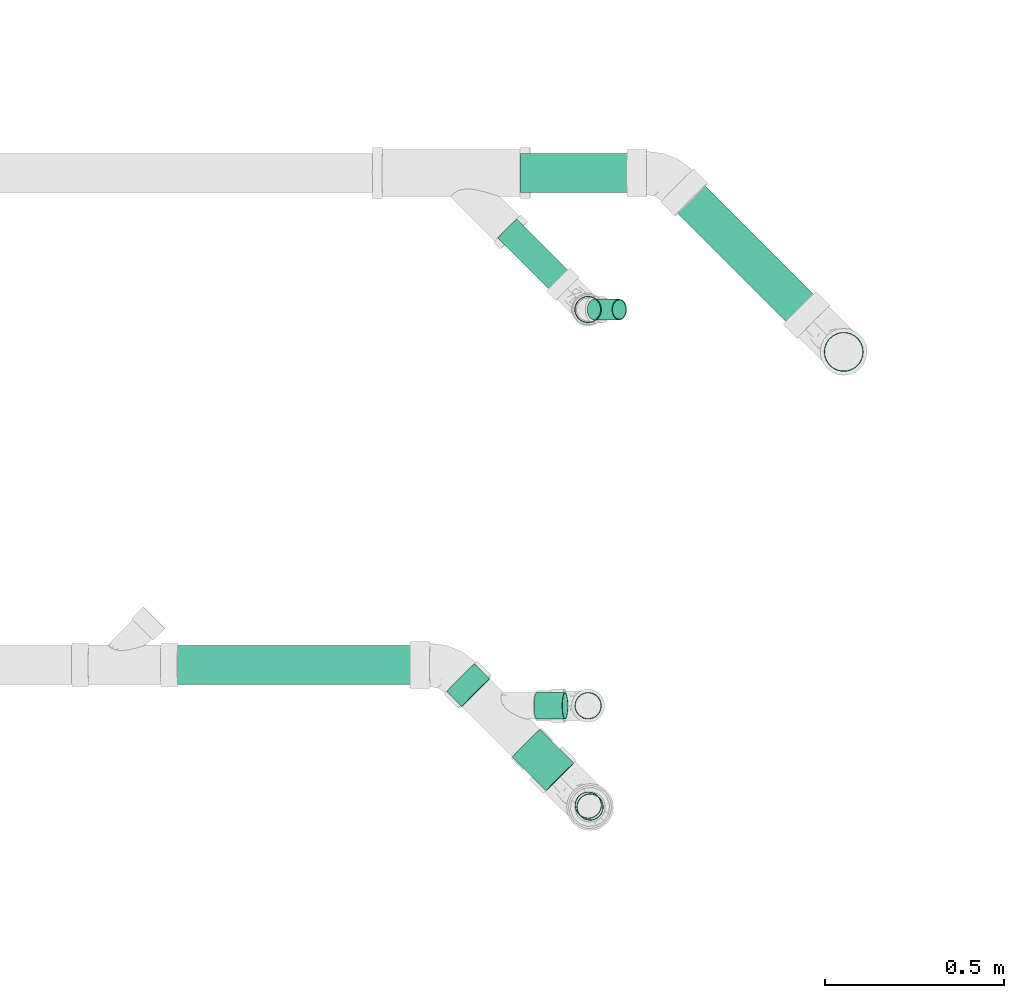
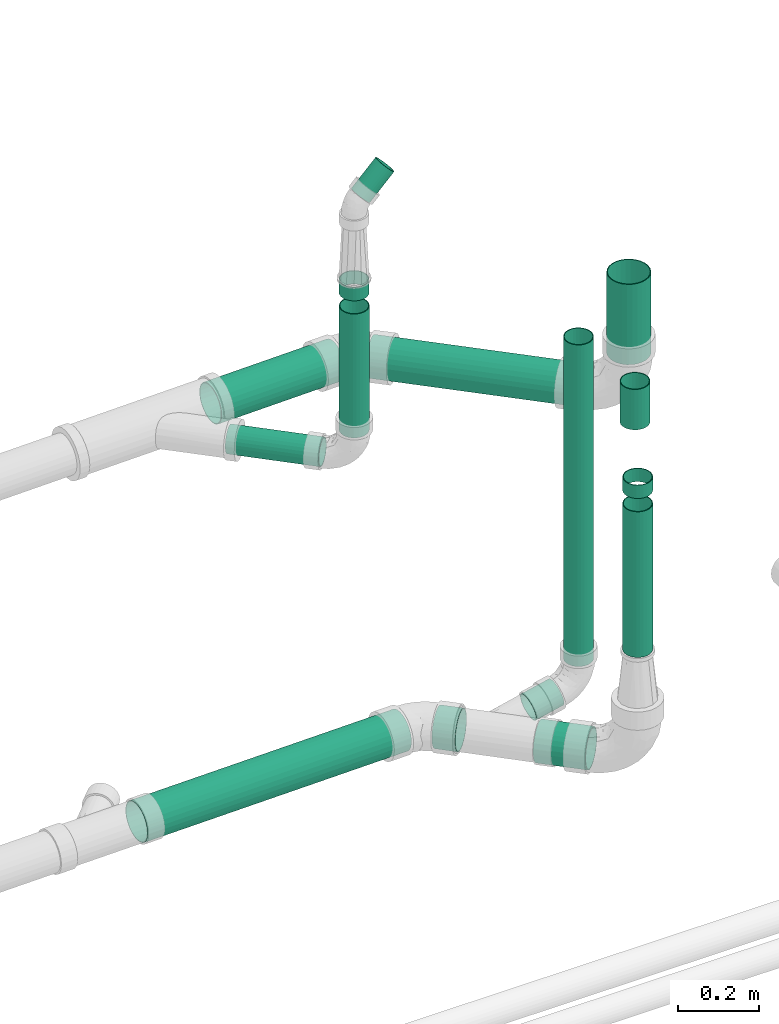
# One storey, part 34 of 83: 15 flow segments.
"""IFC2X3 building model written with IfcOpenShell, lengths in millimetres."""

from ifc_helpers import new_model, entity, si_unit, converted_unit, derived_unit, direction, frame, origin_with_axes, origin_2d_with_axis, place, context, subcontext, project, spatial, hollow_circle, extrude, source, transform, mapped, type_object, element, save


model = new_model("IFC2X3")

# Units and contexts
model_context = context("Model", 3, precision=0.01, world=frame((0.0, 4.29681676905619e-09, 0.0)), true_north=direction((4.01073788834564e-13, 1.0)))
plan_context = context("Plan", 3, precision=0.01, world=frame((0.0, 4.29681676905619e-09, 0.0)), true_north=direction((4.01073788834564e-13, 1.0)))
body_context = subcontext(model_context, "Body", "Model", "MODEL_VIEW")
ifc_project = project(units=[converted_unit("PLANEANGLEUNIT", "DEGREE", entity("IfcPositiveLengthMeasure", 0.0174532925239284), si_unit("PLANEANGLEUNIT", "RADIAN"), dimensions=[0, 0, 0, 0, 0, 0, 0]), si_unit("AREAUNIT", "SQUARE_METRE"), si_unit("LENGTHUNIT", "METRE", prefix="MILLI"), si_unit("MASSUNIT", "GRAM", prefix="KILO"), si_unit("POWERUNIT", "WATT"), si_unit("PRESSUREUNIT", "PASCAL"), si_unit("FORCEUNIT", "NEWTON", prefix="KILO"), si_unit("ELECTRICVOLTAGEUNIT", "VOLT"), si_unit("ELECTRICCURRENTUNIT", "AMPERE"), si_unit("THERMODYNAMICTEMPERATUREUNIT", "DEGREE_CELSIUS"), si_unit("TIMEUNIT", "SECOND"), si_unit("VOLUMEUNIT", "CUBIC_METRE"), derived_unit("LINEARVELOCITYUNIT", [(si_unit("LENGTHUNIT", "METRE"), 1), (si_unit("TIMEUNIT", "SECOND"), -1)]), derived_unit("VOLUMETRICFLOWRATEUNIT", [(si_unit("VOLUMEUNIT", "CUBIC_METRE"), 1), (si_unit("TIMEUNIT", "SECOND"), -1)]), derived_unit("THERMALTRANSMITTANCEUNIT", [(si_unit("POWERUNIT", "WATT"), 1), (si_unit("THERMODYNAMICTEMPERATUREUNIT", "KELVIN"), -1), (si_unit("AREAUNIT", "SQUARE_METRE"), -1)]), derived_unit("SOUNDPRESSUREUNIT", [(si_unit("PRESSUREUNIT", "PASCAL"), 1)])], contexts=[model_context, plan_context])

# Site, building, storey
site_placement = place(None, frame((0.0, -4.29681676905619e-09, 0.0), z_axis=(0.0, 0.0, 1.0), x_axis=(1.0, 0.0, 0.0)))
site = spatial("IfcSite", under=ifc_project, at=site_placement, Name="ENGM", CompositionType="ELEMENT")
building_placement = place(site_placement, frame((0.0, 4.29681676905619e-09, 0.0), z_axis=(0.0, 0.0, 1.0), x_axis=(1.0, 0.0, 0.0)))
building = spatial("IfcBuilding", under=site, at=building_placement, Name="TI", CompositionType="ELEMENT")
storey_placement = place(building_placement, frame((0.0, 0.0, 204000.0), z_axis=(0.0, 0.0, 1.0), x_axis=(1.0, 0.0, 0.0)))
storey = spatial("IfcBuildingStorey", under=building, at=storey_placement, Name="Nivå D", CompositionType="ELEMENT", Elevation=204000.0)

# Flow segments
pipe_segment_type_1 = type_object("IfcPipeSegmentType", Name="Super-MA", PredefinedType="RIGIDSEGMENT")
shared_shape_1 = source(origin_with_axes(), body_context, "Body", "SweptSolid", [
    extrude(hollow_circle(Radius=55.0, WallThickness=2.0, at=origin_2d_with_axis()), frame((0.0, 0.0, 0.0), z_axis=(1.0, 0.0, 0.0), x_axis=(0.0, 1.0, 0.0)), (0.0, 0.0, 1.0), 242.2),
])
flow_segment_1_placement = place(storey_placement, frame((609839.75521, 693872.49336, 6372.76173999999), z_axis=(6.61744490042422e-23, 0.999999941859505, -0.000340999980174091), x_axis=(0.000337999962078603, 0.000340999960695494, 0.99999988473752)))
element("IfcFlowSegment", 1, at=flow_segment_1_placement, inside=storey, type_object=pipe_segment_type_1, Name="Super-MA", context=body_context, shape_type="MappedRepresentation", body=[
    mapped(shared_shape_1, transform((0.0, 0.0, 0.0), scale=1.0)),
])
pipe_segment_type_2 = type_object("IfcPipeSegmentType", Name="MA", PredefinedType="RIGIDSEGMENT")
shared_shape_2 = source(origin_with_axes(), body_context, "Body", "SweptSolid", [
    extrude(hollow_circle(Radius=55.0, WallThickness=2.0, at=origin_2d_with_axis()), frame((0.0, 0.0, 0.0), z_axis=(1.0, 0.0, 0.0), x_axis=(0.0, 1.0, 0.0)), (0.0, 0.0, 1.0), 752.1),
])
flow_segment_2_placement = place(storey_placement, frame((607931.88807, 692997.82372, 6156.14934), z_axis=(-0.000115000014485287, -0.999976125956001, 0.00690900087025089), x_axis=(0.9998610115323, 2.03257913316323e-07, 0.0166720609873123)))
element("IfcFlowSegment", 2, at=flow_segment_2_placement, inside=storey, type_object=pipe_segment_type_2, Name="MA", context=body_context, shape_type="MappedRepresentation", body=[
    mapped(shared_shape_2, transform((0.0, 0.0, 0.0), scale=1.0)),
])
shared_shape_3 = source(origin_with_axes(), body_context, "Body", "SweptSolid", [
    extrude(hollow_circle(Radius=55.0, WallThickness=2.0, at=origin_2d_with_axis()), frame((0.0, 0.0, 0.0), z_axis=(1.0, 0.0, 0.0), x_axis=(0.0, 1.0, 0.0)), (0.0, 0.0, 1.0), 353.4),
])
flow_segment_3_placement = place(storey_placement, frame((608936.25242, 694372.51419, 6231.58476999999), z_axis=(9.20000301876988e-05, 0.999989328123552, -0.00461900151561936), x_axis=(0.999799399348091, 5.32437705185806e-07, 0.0200290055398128)))
element("IfcFlowSegment", 3, at=flow_segment_3_placement, inside=storey, type_object=pipe_segment_type_1, Name="Super-MA", context=body_context, shape_type="MappedRepresentation", body=[
    mapped(shared_shape_3, transform((0.0, 0.0, 0.0), scale=1.0)),
])
shared_shape_4 = source(origin_with_axes(), body_context, "Body", "SweptSolid", [
    extrude(hollow_circle(Radius=55.0, WallThickness=2.0, at=origin_2d_with_axis()), frame((0.0, 0.0, 0.0), z_axis=(1.0, 0.0, 0.0), x_axis=(0.0, 1.0, 0.0)), (0.0, 0.0, 1.0), 538.6),
])
flow_segment_4_placement = place(storey_placement, frame((609755.89945, 693956.33573, 6251.78594), z_axis=(-0.707106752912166, -0.707106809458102, -1.99919970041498e-06), x_axis=(-0.706965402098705, 0.706965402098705, -0.0199960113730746)))
element("IfcFlowSegment", 4, at=flow_segment_4_placement, inside=storey, type_object=pipe_segment_type_1, Name="Super-MA", context=body_context, shape_type="MappedRepresentation", body=[
    mapped(shared_shape_4, transform((0.0, 0.0, 0.0), scale=1.0)),
])
shared_shape_5 = source(origin_with_axes(), body_context, "Body", "SweptSolid", [
    extrude(hollow_circle(Radius=55.0, WallThickness=2.0, at=origin_2d_with_axis()), frame((0.0, 0.0, 0.0), z_axis=(1.0, 0.0, 0.0), x_axis=(0.0, 1.0, 0.0)), (0.0, 0.0, 1.0), 133.6),
])
flow_segment_5_placement = place(storey_placement, frame((608952.37628, 692779.42483, 6174.66521000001), z_axis=(0.0117860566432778, -0.0117860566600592, -0.999861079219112), x_axis=(0.706902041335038, -0.707115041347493, 0.0166680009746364)))
element("IfcFlowSegment", 5, at=flow_segment_5_placement, inside=storey, type_object=pipe_segment_type_2, Name="MA", context=body_context, shape_type="MappedRepresentation", body=[
    mapped(shared_shape_5, transform((0.0, 0.0, 0.0), scale=1.0)),
])
shared_shape_6 = source(origin_with_axes(), body_context, "Body", "SweptSolid", [
    extrude(hollow_circle(Radius=37.5, WallThickness=2.0, at=origin_2d_with_axis()), frame((0.0, 0.0, 0.0), z_axis=(1.0, 0.0, 0.0), x_axis=(0.0, 1.0, 0.0)), (0.0, 0.0, 1.0), 121.9),
])
flow_segment_6_placement = place(storey_placement, frame((609126.10046, 692605.96734, 7182.18557999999), z_axis=(-0.707106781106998, 0.707106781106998, 1.49999953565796e-05), x_axis=(1.36065984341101e-05, -7.60659843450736e-06, 0.9999999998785)))
element("IfcFlowSegment", 6, at=flow_segment_6_placement, inside=storey, type_object=pipe_segment_type_2, Name="MA", context=body_context, shape_type="MappedRepresentation", body=[
    mapped(shared_shape_6, transform((0.0, 0.0, 0.0), scale=1.0)),
])
shared_shape_7 = source(origin_with_axes(), body_context, "Body", "SweptSolid", [
    extrude(hollow_circle(Radius=37.5, WallThickness=2.0, at=origin_2d_with_axis()), frame((0.0, 0.0, 0.0), z_axis=(1.0, 0.0, 0.0), x_axis=(0.0, 1.0, 0.0)), (0.0, 0.0, 1.0), 239.0),
])
flow_segment_7_placement = place(storey_placement, frame((608899.34262, 694216.98606, 6231.56537), z_axis=(-0.0123180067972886, 0.0123190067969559, 0.999848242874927), x_axis=(0.707052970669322, -0.706945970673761, 0.0174209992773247)))
element("IfcFlowSegment", 7, at=flow_segment_7_placement, inside=storey, type_object=pipe_segment_type_1, Name="Super-MA", context=body_context, shape_type="MappedRepresentation", body=[
    mapped(shared_shape_7, transform((0.0, 0.0, 0.0), scale=1.0)),
])
shared_shape_8 = source(origin_with_axes(), body_context, "Body", "SweptSolid", [
    extrude(hollow_circle(Radius=37.5, WallThickness=2.0, at=origin_2d_with_axis()), frame((0.0, 0.0, 0.0), z_axis=(1.0, 0.0, 0.0), x_axis=(0.0, 1.0, 0.0)), (0.0, 0.0, 1.0), 40.0),
])
flow_segment_8_placement = place(storey_placement, frame((609124.91157, 693990.76857, 6731.59581), z_axis=(0.0, -1.0, 0.0), x_axis=(0.0, 0.0, 1.0)))
element("IfcFlowSegment", 8, at=flow_segment_8_placement, inside=storey, type_object=pipe_segment_type_1, Name="Super-MA", context=body_context, shape_type="MappedRepresentation", body=[
    mapped(shared_shape_8, transform((0.0, 0.0, 0.0), scale=1.0)),
])
flow_segment_9_placement = place(storey_placement, frame((609131.10409, 692600.96479, 6976.76272), z_axis=(0.0, 1.0, 0.0), x_axis=(0.0, 0.0, 1.0)))
element("IfcFlowSegment", 9, at=flow_segment_9_placement, inside=storey, type_object=pipe_segment_type_2, Name="MA", context=body_context, shape_type="MappedRepresentation", body=[
    mapped(shared_shape_8, transform((0.0, 0.0, 0.0), scale=1.0)),
])
shared_shape_9 = source(origin_with_axes(), body_context, "Body", "SweptSolid", [
    extrude(hollow_circle(Radius=29.0, WallThickness=2.0, at=origin_2d_with_axis()), frame((0.0, 0.0, 0.0), z_axis=(1.0, 0.0, 0.0), x_axis=(0.0, 1.0, 0.0)), (0.0, 0.0, 1.0), 97.8),
])
flow_segment_10_placement = place(storey_placement, frame((609143.59815, 693990.76857, 7016.70921999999), z_axis=(-0.707106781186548, 0.0, 0.707106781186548), x_axis=(0.707106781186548, 0.0, 0.707106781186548)))
element("IfcFlowSegment", 10, at=flow_segment_10_placement, inside=storey, type_object=pipe_segment_type_1, Name="Super-MA", context=body_context, shape_type="MappedRepresentation", body=[
    mapped(shared_shape_9, transform((0.0, 0.0, 0.0), scale=1.0)),
])
shared_shape_10 = source(origin_with_axes(), body_context, "Body", "SweptSolid", [
    extrude(hollow_circle(Radius=37.5, WallThickness=2.0, at=origin_2d_with_axis()), frame((0.0, 0.0, 0.0), z_axis=(1.0, 0.0, 0.0), x_axis=(0.0, 1.0, 0.0)), (0.0, 0.0, 1.0), 969.1),
])
flow_segment_11_placement = place(storey_placement, frame((609125.54262, 692883.7066, 7269.92357000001), z_axis=(0.0, -1.0, 0.0), x_axis=(1.89999999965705e-05, 0.0, -0.9999999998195)))
element("IfcFlowSegment", 11, at=flow_segment_11_placement, inside=storey, type_object=pipe_segment_type_2, Name="MA", context=body_context, shape_type="MappedRepresentation", body=[
    mapped(shared_shape_10, transform((0.0, 0.0, 0.0), scale=1.0)),
])
shared_shape_11 = source(origin_with_axes(), body_context, "Body", "SweptSolid", [
    extrude(hollow_circle(Radius=37.5, WallThickness=2.0, at=origin_2d_with_axis()), frame((0.0, 0.0, 0.0), z_axis=(1.0, 0.0, 0.0), x_axis=(0.0, 1.0, 0.0)), (0.0, 0.0, 1.0), 80.8),
])
flow_segment_12_placement = place(storey_placement, frame((608982.41121, 692883.69745, 6202.54822), z_axis=(0.219923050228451, 2.11758236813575e-22, -0.97551722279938), x_axis=(0.975517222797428, 2.00000045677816e-06, 0.219923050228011)))
element("IfcFlowSegment", 12, at=flow_segment_12_placement, inside=storey, type_object=pipe_segment_type_2, Name="MA", context=body_context, shape_type="MappedRepresentation", body=[
    mapped(shared_shape_11, transform((0.0, 0.0, 0.0), scale=1.0)),
])
shared_shape_12 = source(origin_with_axes(), body_context, "Body", "SweptSolid", [
    extrude(hollow_circle(Radius=55.0, WallThickness=2.0, at=origin_2d_with_axis()), frame((0.0, 0.0, 0.0), z_axis=(1.0, 0.0, 0.0), x_axis=(0.0, 1.0, 0.0)), (0.0, 0.0, 1.0), 59.5),
])
flow_segment_13_placement = place(storey_placement, frame((608769.40679, 692962.39433, 6170.35258000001), z_axis=(0.707008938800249, 0.707170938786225, 0.00690099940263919), x_axis=(0.707008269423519, -0.707008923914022, 0.0166639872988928)))
element("IfcFlowSegment", 13, at=flow_segment_13_placement, inside=storey, type_object=pipe_segment_type_2, Name="MA", context=body_context, shape_type="MappedRepresentation", body=[
    mapped(shared_shape_12, transform((0.0, 0.0, 0.0), scale=1.0)),
])
shared_shape_13 = source(origin_with_axes(), body_context, "Body", "SweptSolid", [
    extrude(hollow_circle(Radius=37.5, WallThickness=2.0, at=origin_2d_with_axis()), frame((0.0, 0.0, 0.0), z_axis=(1.0, 0.0, 0.0), x_axis=(0.0, 1.0, 0.0)), (0.0, 0.0, 1.0), 373.4),
])
flow_segment_14_placement = place(storey_placement, frame((609125.53721, 693990.8619, 6318.21332000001), z_axis=(0.0, -1.0, 0.0), x_axis=(0.0, 0.0, 1.0)))
element("IfcFlowSegment", 14, at=flow_segment_14_placement, inside=storey, type_object=pipe_segment_type_1, Name="Super-MA", context=body_context, shape_type="MappedRepresentation", body=[
    mapped(shared_shape_13, transform((0.0, 0.0, 0.0), scale=1.0)),
])
shared_shape_14 = source(origin_with_axes(), body_context, "Body", "SweptSolid", [
    extrude(hollow_circle(Radius=37.5, WallThickness=2.0, at=origin_2d_with_axis()), frame((0.0, 0.0, 0.0), z_axis=(1.0, 0.0, 0.0), x_axis=(0.0, 1.0, 0.0)), (0.0, 0.0, 1.0), 438.9),
])
flow_segment_15_placement = place(storey_placement, frame((609130.93565, 692600.83697, 6497.87482999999), z_axis=(0.0, 1.0, 0.0), x_axis=(0.0, 0.0, 1.0)))
element("IfcFlowSegment", 15, at=flow_segment_15_placement, inside=storey, type_object=pipe_segment_type_2, Name="MA", context=body_context, shape_type="MappedRepresentation", body=[
    mapped(shared_shape_14, transform((0.0, 0.0, 0.0), scale=1.0)),
])

save(model, "model.ifc")
